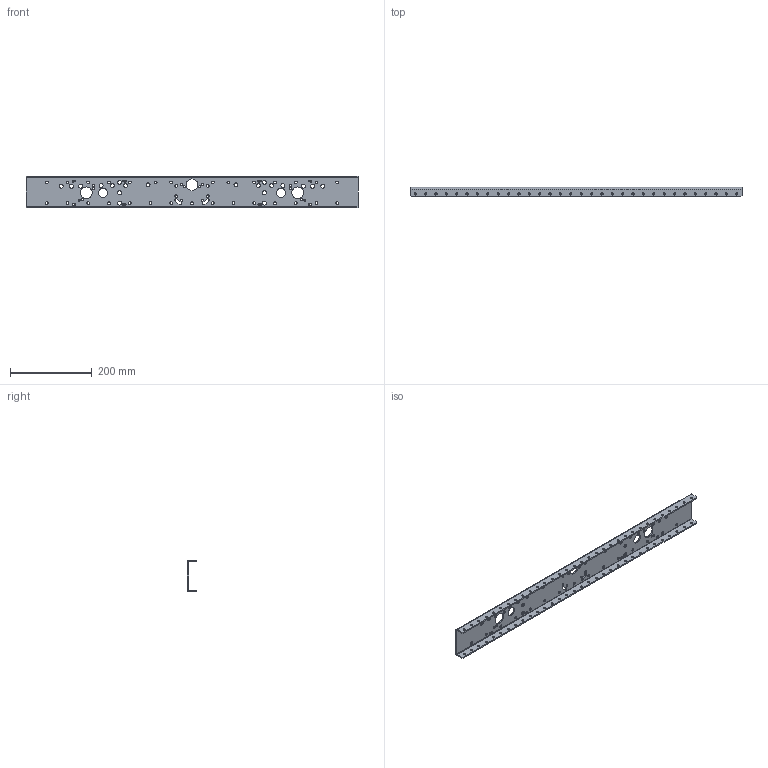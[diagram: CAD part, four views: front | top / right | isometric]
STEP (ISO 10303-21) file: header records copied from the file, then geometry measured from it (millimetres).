
FILE_DESCRIPTION(/* description */ (''),/* implementation_level */ '2;1');
FILE_NAME(/* name */ 'AM14U5 Outside Plate .step',/* time_stamp */ '2022-12-29T16:19:55-08:00',/* author */ (''),/* organization */ (''),/* preprocessor_version */ 'ST-DEVELOPER v19.2',/* originating_system */ 'Autodesk Translation Framework v11.17.0.187',/* authorisation */ '');
FILE_SCHEMA (('AUTOMOTIVE_DESIGN { 1 0 10303 214 3 1 1 }'));
Length unit declared in the file: inch
Products named in the file (1): AM14U5 Outside Plate
Bounding box: 812.8 x 22.23 x 77.72 mm (x, y, z)
Volume: 269813.7 mm3; surface area: 186344.5 mm2
Topology: 1 solids, 1 shells, 186 faces, 536 edges, 352 vertices
Faces by surface type: cylinder 160, plane 26
Full cylindrical faces by diameter (mm): 3.572 x8, 5.105 x22, 5.334 x64, 6.756 x33, 9.525 x20, 22.225 x2, 28.575 x3
Entity records: 6923 total; most frequent: DIRECTION 1230, CARTESIAN_POINT 1075, ORIENTED_EDGE 1072, EDGE_CURVE 536, AXIS2_PLACEMENT_3D 507, EDGE_LOOP 494, VERTEX_POINT 352, CIRCLE 320
